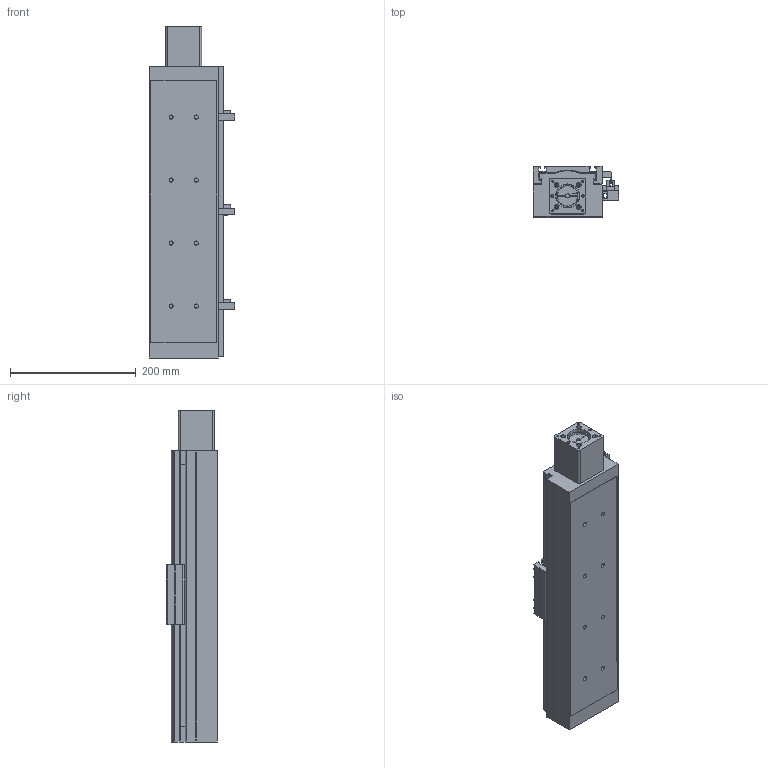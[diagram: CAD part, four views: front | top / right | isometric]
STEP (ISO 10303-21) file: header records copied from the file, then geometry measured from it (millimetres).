
FILE_DESCRIPTION((''),'2;1');
FILE_NAME('E:\libraries\UIA actuator library 2009\standard actuator\UIA110R12(15)DC\UIA110R12(15)DC-ball screw dia.20\UIA110R12(15)DC-_ _ _-R20_ _-M23 step file 20Apr16\UIA110R12(15)DC-300-R20_ _-M23-P13-C10-S.stp','2016-04-21T11:10:59',('h029'),(''),'Autodesk Inventor 11','Autodesk Inventor 11','');
FILE_SCHEMA(('AUTOMOTIVE_DESIGN { 1 0 10303 214 1 1 1 1 }'));
Length unit declared in the file: millimetre
Products named in the file (10): UIA110R12(15)DC-300, ball screw dia.20; body, UIA110R12(15)DC-300,ball screw dia.20; Carriage, UIA110R12(15)DC; Sen Switch, UIA110R12(15)DC; sensor rail, UIA110R12(15)DC-300; SOH-32C; SOH-32C-3; SOH-32C-1; SOH-32C-2; M23 motor mount
Assembly tree (9 placements, depth 3):
  UIA110R12(15)DC-300, ball screw dia.20
    body, UIA110R12(15)DC-300,ball screw dia.20
    Carriage, UIA110R12(15)DC
    Sen Switch, UIA110R12(15)DC
    sensor rail, UIA110R12(15)DC-300
    SOH-32C
      SOH-32C-3
      SOH-32C-1
      SOH-32C-2
    M23 motor mount
Bounding box: 136.5 x 81 x 527 mm (x, y, z)
Volume: 3686741.4 mm3; surface area: 345547.2 mm2
Topology: 8 solids, 8 shells, 587 faces, 1605 edges, 1048 vertices
Faces by surface type: plane 373, cylinder 115, bspline 81, cone 18
Full cylindrical faces by diameter (mm): 2.459 x3, 3.242 x4, 4 x6, 4.5 x4, 5.5 x3, 6.35 x1, 6.5 x8, 7.5 x4, 9.5 x6, 10 x2, 10.5 x8, 12 x1, 25 x1, 32 x3, 37 x1, 38.1 x1, 42 x1, 42.01 x1, 43.5 x1
Entity records: 19124 total; most frequent: CARTESIAN_POINT 4921, DIRECTION 2837, ORIENTED_EDGE 2776, EDGE_CURVE 1388, VERTEX_POINT 975, VECTOR 951, LINE 951, AXIS2_PLACEMENT_3D 943
